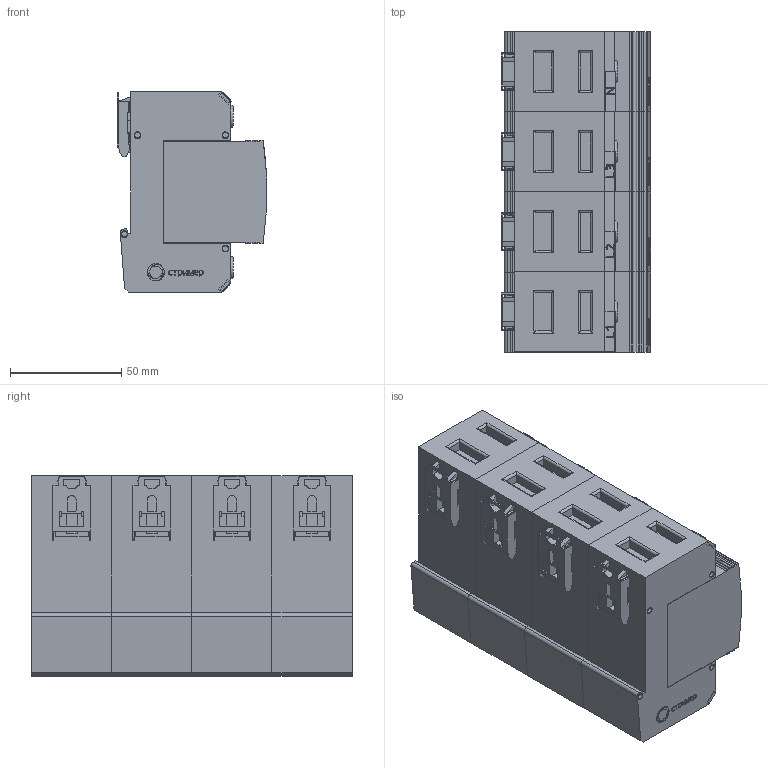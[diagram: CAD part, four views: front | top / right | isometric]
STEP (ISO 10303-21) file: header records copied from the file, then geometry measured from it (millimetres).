
FILE_DESCRIPTION(('TFLEX Exchange Step'),'2;1');
FILE_NAME('X2\041004400442\X0\.114_001.stp', '2022-08-30T13:54:22+03:00',('Ivan Berdigulov'),('Unknown organisation'),'TFLEX Exchange 2019.2','T-FLEX CAD','Unknown authorisation');
FILE_SCHEMA( ('AUTOMOTIVE_DESIGN { 1 0 10303 214 1 1 1 1 }') );
Length unit declared in the file: millimetre
Products named in the file (2): 0
Assembly tree (1 placements, depth 2):
  0
    0
Bounding box: 66.98 x 144.1 x 90.09 mm (x, y, z)
Volume: 690953.6 mm3; surface area: 139695.9 mm2
Topology: 123 solids, 123 shells, 1962 faces, 5006 edges, 3326 vertices
Faces by surface type: plane 1256, cylinder 398, bspline 300, torus 8
Full cylindrical faces by diameter (mm): 2.5 x48, 3 x48
Entity records: 85833 total; most frequent: CARTESIAN_POINT 40049, ORIENTED_EDGE 9804, DIRECTION 8226, EDGE_CURVE 4902, VERTEX_POINT 3326, VECTOR 3248, LINE 3248, AXIS2_PLACEMENT_3D 2489
